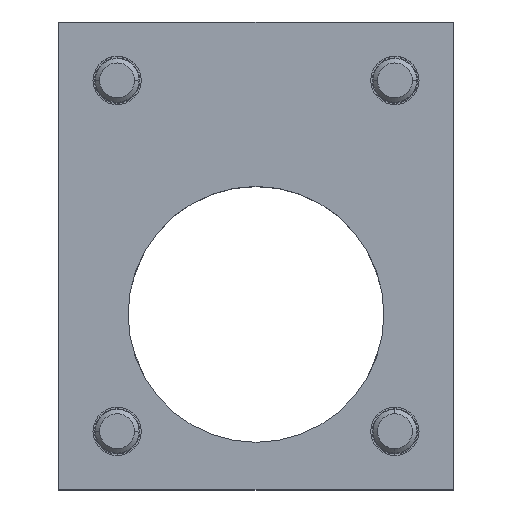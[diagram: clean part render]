
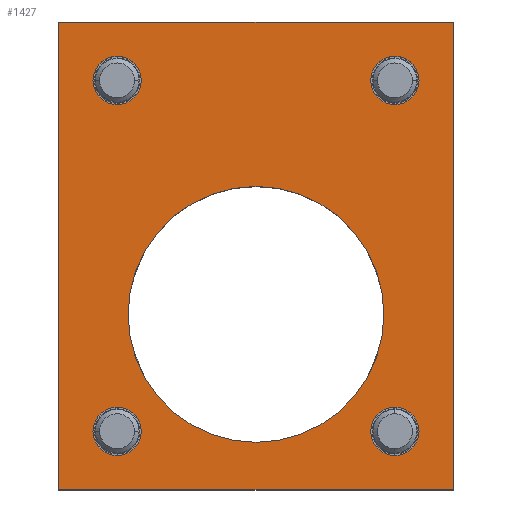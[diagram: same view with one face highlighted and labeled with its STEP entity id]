
A CAD part, top view. The second image highlights one B-rep face of the part: STEP entity #1427.
In plain terms, the highlighted planar face has unit normal (0, 0, 1).
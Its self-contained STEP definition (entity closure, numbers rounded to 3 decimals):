
#49 = DIRECTION ( 'NONE',  ( 0., 1., 0. ) ) ;
#125 = CIRCLE ( 'NONE', #3596, 3.3 ) ;
#143 = DIRECTION ( 'NONE',  ( 0., -1., 0. ) ) ;
#148 = CIRCLE ( 'NONE', #1066, 3.3 ) ;
#154 = CIRCLE ( 'NONE', #2420, 3.3 ) ;
#166 = DIRECTION ( 'NONE',  ( 0., 0., -1. ) ) ;
#270 = CARTESIAN_POINT ( 'NONE',  ( -27., -24., -20. ) ) ;
#313 = EDGE_CURVE ( 'NONE', #1363, #4030, #148, .T. ) ;
#351 = CARTESIAN_POINT ( 'NONE',  ( 27., 40., -20. ) ) ;
#394 = FACE_BOUND ( 'NONE', #871, .T. ) ;
#408 = VERTEX_POINT ( 'NONE', #1243 ) ;
#412 = CARTESIAN_POINT ( 'NONE',  ( 0., 8., -20. ) ) ;
#431 = AXIS2_PLACEMENT_3D ( 'NONE', #1696, #679, #3403 ) ;
#442 = LINE ( 'NONE', #351, #1705 ) ;
#500 = CARTESIAN_POINT ( 'NONE',  ( 27., -24., -20. ) ) ;
#528 = CARTESIAN_POINT ( 'NONE',  ( 19., 32., -20. ) ) ;
#557 = EDGE_CURVE ( 'NONE', #593, #1443, #624, .T. ) ;
#593 = VERTEX_POINT ( 'NONE', #1032 ) ;
#624 = CIRCLE ( 'NONE', #967, 17.5 ) ;
#639 = EDGE_CURVE ( 'NONE', #408, #1926, #442, .T. ) ;
#641 = CARTESIAN_POINT ( 'NONE',  ( 19., 35.3, -20. ) ) ;
#646 = EDGE_CURVE ( 'NONE', #1443, #593, #4398, .T. ) ;
#679 = DIRECTION ( 'NONE',  ( 0., 0., -1. ) ) ;
#686 = FACE_BOUND ( 'NONE', #2683, .T. ) ;
#693 = EDGE_CURVE ( 'NONE', #4030, #1363, #921, .T. ) ;
#697 = CARTESIAN_POINT ( 'NONE',  ( 19., -16., -20. ) ) ;
#700 = EDGE_CURVE ( 'NONE', #1523, #3871, #125, .T. ) ;
#704 = VERTEX_POINT ( 'NONE', #2877 ) ;
#733 = DIRECTION ( 'NONE',  ( 0., 0., -1. ) ) ;
#741 = ORIENTED_EDGE ( 'NONE', *, *, #700, .T. ) ;
#810 = ORIENTED_EDGE ( 'NONE', *, *, #1334, .F. ) ;
#871 = EDGE_LOOP ( 'NONE', ( #3467, #3533 ) ) ;
#897 = CARTESIAN_POINT ( 'NONE',  ( -19., -19.3, -20. ) ) ;
#913 = CIRCLE ( 'NONE', #2547, 3.3 ) ;
#916 = CARTESIAN_POINT ( 'NONE',  ( 19., -19.3, -20. ) ) ;
#919 = EDGE_LOOP ( 'NONE', ( #4054, #2064 ) ) ;
#921 = CIRCLE ( 'NONE', #3756, 3.3 ) ;
#941 = VERTEX_POINT ( 'NONE', #1850 ) ;
#949 = CARTESIAN_POINT ( 'NONE',  ( 27., 40., -20. ) ) ;
#967 = AXIS2_PLACEMENT_3D ( 'NONE', #2437, #4058, #1411 ) ;
#974 = ORIENTED_EDGE ( 'NONE', *, *, #3240, .T. ) ;
#1032 = CARTESIAN_POINT ( 'NONE',  ( 0., 17.5, -20. ) ) ;
#1034 = EDGE_CURVE ( 'NONE', #3028, #704, #2296, .T. ) ;
#1051 = CARTESIAN_POINT ( 'NONE',  ( 0., -17.5, -20. ) ) ;
#1063 = ORIENTED_EDGE ( 'NONE', *, *, #3886, .F. ) ;
#1066 = AXIS2_PLACEMENT_3D ( 'NONE', #1483, #3506, #4235 ) ;
#1073 = CARTESIAN_POINT ( 'NONE',  ( -19., 35.3, -20. ) ) ;
#1156 = EDGE_LOOP ( 'NONE', ( #1441, #2679 ) ) ;
#1243 = CARTESIAN_POINT ( 'NONE',  ( -27., 40., -20. ) ) ;
#1259 = LINE ( 'NONE', #2310, #3284 ) ;
#1334 = EDGE_CURVE ( 'NONE', #704, #408, #1259, .T. ) ;
#1363 = VERTEX_POINT ( 'NONE', #641 ) ;
#1368 = FACE_BOUND ( 'NONE', #919, .T. ) ;
#1387 = CIRCLE ( 'NONE', #2598, 3.3 ) ;
#1388 = DIRECTION ( 'NONE',  ( 0., -1., 0. ) ) ;
#1391 = DIRECTION ( 'NONE',  ( 1., 0., 0. ) ) ;
#1409 = PLANE ( 'NONE',  #2160 ) ;
#1411 = DIRECTION ( 'NONE',  ( 0., 1., 0. ) ) ;
#1427 = ADVANCED_FACE ( 'NONE', ( #394, #2022, #686, #2745, #1368, #4056 ), #1409, .T. ) ;
#1441 = ORIENTED_EDGE ( 'NONE', *, *, #2940, .T. ) ;
#1443 = VERTEX_POINT ( 'NONE', #1051 ) ;
#1450 = EDGE_LOOP ( 'NONE', ( #4177, #810, #3914, #1063 ) ) ;
#1457 = DIRECTION ( 'NONE',  ( 0., 0., -1. ) ) ;
#1483 = CARTESIAN_POINT ( 'NONE',  ( 19., 32., -20. ) ) ;
#1523 = VERTEX_POINT ( 'NONE', #1073 ) ;
#1527 = CARTESIAN_POINT ( 'NONE',  ( -19., 32., -20. ) ) ;
#1585 = CARTESIAN_POINT ( 'NONE',  ( -19., -12.7, -20. ) ) ;
#1696 = CARTESIAN_POINT ( 'NONE',  ( -19., -16., -20. ) ) ;
#1705 = VECTOR ( 'NONE', #1391, 1000. ) ;
#1762 = CARTESIAN_POINT ( 'NONE',  ( -19., 28.7, -20. ) ) ;
#1850 = CARTESIAN_POINT ( 'NONE',  ( 19., -12.7, -20. ) ) ;
#1926 = VERTEX_POINT ( 'NONE', #949 ) ;
#2015 = DIRECTION ( 'NONE',  ( 0., 1., 0. ) ) ;
#2022 = FACE_BOUND ( 'NONE', #3404, .T. ) ;
#2038 = CARTESIAN_POINT ( 'NONE',  ( 19., -16., -20. ) ) ;
#2064 = ORIENTED_EDGE ( 'NONE', *, *, #693, .T. ) ;
#2097 = DIRECTION ( 'NONE',  ( 0., 1., 0. ) ) ;
#2160 = AXIS2_PLACEMENT_3D ( 'NONE', #412, #3365, #1388 ) ;
#2296 = LINE ( 'NONE', #270, #2385 ) ;
#2310 = CARTESIAN_POINT ( 'NONE',  ( -27., 40., -20. ) ) ;
#2385 = VECTOR ( 'NONE', #4373, 1000. ) ;
#2406 = DIRECTION ( 'NONE',  ( 0., 0., -1. ) ) ;
#2420 = AXIS2_PLACEMENT_3D ( 'NONE', #3494, #166, #3913 ) ;
#2437 = CARTESIAN_POINT ( 'NONE',  ( 0., 0., -20. ) ) ;
#2547 = AXIS2_PLACEMENT_3D ( 'NONE', #697, #2406, #49 ) ;
#2571 = CARTESIAN_POINT ( 'NONE',  ( -19., 32., -20. ) ) ;
#2598 = AXIS2_PLACEMENT_3D ( 'NONE', #1527, #3750, #2779 ) ;
#2608 = VERTEX_POINT ( 'NONE', #897 ) ;
#2629 = AXIS2_PLACEMENT_3D ( 'NONE', #3767, #733, #2097 ) ;
#2640 = DIRECTION ( 'NONE',  ( 0., 1., 0. ) ) ;
#2679 = ORIENTED_EDGE ( 'NONE', *, *, #2752, .T. ) ;
#2683 = EDGE_LOOP ( 'NONE', ( #3555, #974 ) ) ;
#2745 = FACE_BOUND ( 'NONE', #1156, .T. ) ;
#2752 = EDGE_CURVE ( 'NONE', #2608, #3070, #3904, .T. ) ;
#2779 = DIRECTION ( 'NONE',  ( 0., 1., 0. ) ) ;
#2877 = CARTESIAN_POINT ( 'NONE',  ( -27., -24., -20. ) ) ;
#2940 = EDGE_CURVE ( 'NONE', #3070, #2608, #154, .T. ) ;
#3028 = VERTEX_POINT ( 'NONE', #500 ) ;
#3070 = VERTEX_POINT ( 'NONE', #1585 ) ;
#3112 = LINE ( 'NONE', #4152, #4047 ) ;
#3215 = DIRECTION ( 'NONE',  ( 0., 0., -1. ) ) ;
#3240 = EDGE_CURVE ( 'NONE', #3604, #941, #913, .T. ) ;
#3284 = VECTOR ( 'NONE', #2640, 1000. ) ;
#3342 = CIRCLE ( 'NONE', #4194, 3.3 ) ;
#3365 = DIRECTION ( 'NONE',  ( 0., 0., 1. ) ) ;
#3403 = DIRECTION ( 'NONE',  ( 0., 1., 0. ) ) ;
#3404 = EDGE_LOOP ( 'NONE', ( #741, #4224 ) ) ;
#3467 = ORIENTED_EDGE ( 'NONE', *, *, #557, .T. ) ;
#3494 = CARTESIAN_POINT ( 'NONE',  ( -19., -16., -20. ) ) ;
#3506 = DIRECTION ( 'NONE',  ( 0., 0., -1. ) ) ;
#3533 = ORIENTED_EDGE ( 'NONE', *, *, #646, .T. ) ;
#3555 = ORIENTED_EDGE ( 'NONE', *, *, #3703, .T. ) ;
#3596 = AXIS2_PLACEMENT_3D ( 'NONE', #2571, #3215, #3894 ) ;
#3604 = VERTEX_POINT ( 'NONE', #916 ) ;
#3703 = EDGE_CURVE ( 'NONE', #941, #3604, #3342, .T. ) ;
#3750 = DIRECTION ( 'NONE',  ( 0., 0., -1. ) ) ;
#3756 = AXIS2_PLACEMENT_3D ( 'NONE', #528, #1457, #3920 ) ;
#3767 = CARTESIAN_POINT ( 'NONE',  ( 0., 0., -20. ) ) ;
#3871 = VERTEX_POINT ( 'NONE', #1762 ) ;
#3886 = EDGE_CURVE ( 'NONE', #1926, #3028, #3112, .T. ) ;
#3894 = DIRECTION ( 'NONE',  ( 0., 1., 0. ) ) ;
#3904 = CIRCLE ( 'NONE', #431, 3.3 ) ;
#3913 = DIRECTION ( 'NONE',  ( 0., 1., 0. ) ) ;
#3914 = ORIENTED_EDGE ( 'NONE', *, *, #1034, .F. ) ;
#3920 = DIRECTION ( 'NONE',  ( 0., 1., 0. ) ) ;
#4004 = DIRECTION ( 'NONE',  ( 0., 0., -1. ) ) ;
#4030 = VERTEX_POINT ( 'NONE', #4270 ) ;
#4047 = VECTOR ( 'NONE', #143, 1000. ) ;
#4054 = ORIENTED_EDGE ( 'NONE', *, *, #313, .T. ) ;
#4056 = FACE_OUTER_BOUND ( 'NONE', #1450, .T. ) ;
#4058 = DIRECTION ( 'NONE',  ( 0., 0., -1. ) ) ;
#4152 = CARTESIAN_POINT ( 'NONE',  ( 27., -24., -20. ) ) ;
#4177 = ORIENTED_EDGE ( 'NONE', *, *, #639, .F. ) ;
#4194 = AXIS2_PLACEMENT_3D ( 'NONE', #2038, #4004, #2015 ) ;
#4224 = ORIENTED_EDGE ( 'NONE', *, *, #4326, .T. ) ;
#4235 = DIRECTION ( 'NONE',  ( 0., 1., 0. ) ) ;
#4270 = CARTESIAN_POINT ( 'NONE',  ( 19., 28.7, -20. ) ) ;
#4326 = EDGE_CURVE ( 'NONE', #3871, #1523, #1387, .T. ) ;
#4373 = DIRECTION ( 'NONE',  ( -1., 0., 0. ) ) ;
#4398 = CIRCLE ( 'NONE', #2629, 17.5 ) ;
